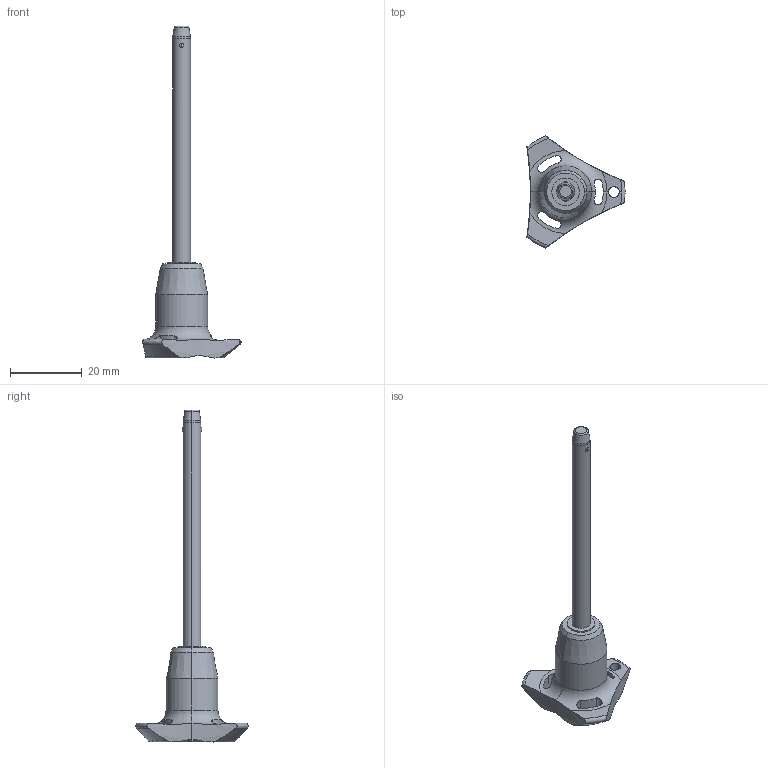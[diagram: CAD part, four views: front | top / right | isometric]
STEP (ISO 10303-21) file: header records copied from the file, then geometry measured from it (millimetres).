
FILE_DESCRIPTION (( 'STEP AP203' ), '1' );
FILE_NAME ('QR1726.M05-060-T.step', '2025-11-13T11:00:30', ( '' ), ( '' ), 'SwSTEP 2.0', 'SolidWorks 2019', '' );
FILE_SCHEMA (( 'CONFIG_CONTROL_DESIGN' ));
Length unit declared in the file: millimetre
Products named in the file (1): QR1726.M05-060-T
Bounding box: 27.4 x 31.31 x 92.7 mm (x, y, z)
Volume: 6046 mm3; surface area: 3450.9 mm2
Topology: 1 solids, 1 shells, 69 faces, 187 edges, 119 vertices
Faces by surface type: cylinder 32, cone 14, torus 12, sphere 6, plane 5
Entity records: 2773 total; most frequent: CARTESIAN_POINT 994, ORIENTED_EDGE 374, DIRECTION 348, EDGE_CURVE 187, AXIS2_PLACEMENT_3D 155, VERTEX_POINT 119, CIRCLE 85, EDGE_LOOP 76
